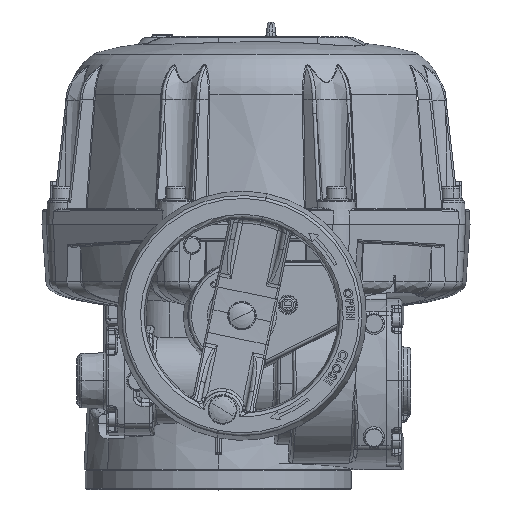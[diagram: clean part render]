
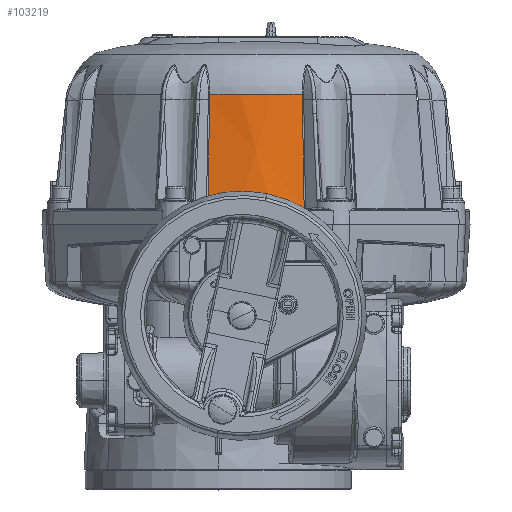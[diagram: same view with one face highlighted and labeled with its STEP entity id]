
A CAD part, top view. The second image highlights one B-rep face of the part: STEP entity #103219.
In plain terms, the highlighted conical face has half-angle 5 degrees and reference radius 131 mm.
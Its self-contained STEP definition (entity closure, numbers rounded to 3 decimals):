
#767 = CARTESIAN_POINT ( 'NONE',  ( 337.524, 263.365, 260.131 ) ) ;
#1423 = CARTESIAN_POINT ( 'NONE',  ( 306.758, 186.5, 139.724 ) ) ;
#6143 = EDGE_CURVE ( 'NONE', #76288, #114962, #65627, .T. ) ;
#6591 = ORIENTED_EDGE ( 'NONE', *, *, #65759, .T. ) ;
#6792 = CARTESIAN_POINT ( 'NONE',  ( 275.888, 259.439, 260.458 ) ) ;
#7192 = CARTESIAN_POINT ( 'NONE',  ( 275.375, 228.226, 263.146 ) ) ;
#8525 = CARTESIAN_POINT ( 'NONE',  ( 274.869, 197.475, 265.793 ) ) ;
#10768 = CARTESIAN_POINT ( 'NONE',  ( 275.993, 263.365, 260.131 ) ) ;
#14200 = CARTESIAN_POINT ( 'NONE',  ( 275.855, 257.447, 260.63 ) ) ;
#14489 = CARTESIAN_POINT ( 'NONE',  ( 337.629, 259.439, 260.458 ) ) ;
#17680 = CARTESIAN_POINT ( 'NONE',  ( 276.026, 262.056, 260.257 ) ) ;
#18094 = CARTESIAN_POINT ( 'NONE',  ( 275.724, 249.477, 261.316 ) ) ;
#19257 = CARTESIAN_POINT ( 'NONE',  ( 338.813, 187.413, 266.659 ) ) ;
#21151 = CARTESIAN_POINT ( 'NONE',  ( 337.524, 263.365, 260.131 ) ) ;
#22842 = VERTEX_POINT ( 'NONE', #56551 ) ;
#22845 = CIRCLE ( 'NONE', #92672, 124.275 ) ;
#24742 = CARTESIAN_POINT ( 'NONE',  ( 337.96, 239.315, 262.191 ) ) ;
#25407 = CARTESIAN_POINT ( 'NONE',  ( 338.791, 188.741, 266.545 ) ) ;
#31359 = CARTESIAN_POINT ( 'NONE',  ( 337.629, 259.439, 260.458 ) ) ;
#32697 = CARTESIAN_POINT ( 'NONE',  ( 337.53, 260.748, 260.365 ) ) ;
#39671 = CIRCLE ( 'NONE', #57096, 130.92 ) ;
#40205 = DIRECTION ( 'NONE',  ( 0., 1., 0. ) ) ;
#40660 = B_SPLINE_CURVE_WITH_KNOTS ( 'NONE', 3,
 ( #64126, #66827, #111681, #14200, #118714, #70713, #18094, #100682, #7192, #69331, #79626, #8525, #108476 ),
 .UNSPECIFIED., .F., .F.,
 ( 4, 3, 3, 3, 4 ),
 ( 0., 0.002, 0.01, 0.042, 0.072 ),
 .UNSPECIFIED. ) ;
#42517 = EDGE_CURVE ( 'NONE', #121570, #22842, #40660, .T. ) ;
#44567 = CARTESIAN_POINT ( 'NONE',  ( 338.3, 218.627, 263.972 ) ) ;
#47030 = DIRECTION ( 'NONE',  ( 0., -1., 0. ) ) ;
#54132 = CARTESIAN_POINT ( 'NONE',  ( 338.813, 187.413, 266.659 ) ) ;
#55471 = CARTESIAN_POINT ( 'NONE',  ( 338.736, 192.062, 266.259 ) ) ;
#56483 = DIRECTION ( 'NONE',  ( -1., 0., 0. ) ) ;
#56551 = CARTESIAN_POINT ( 'NONE',  ( 274.704, 187.413, 266.659 ) ) ;
#57096 = AXIS2_PLACEMENT_3D ( 'NONE', #118001, #106373, #56483 ) ;
#58214 = VERTEX_POINT ( 'NONE', #19257 ) ;
#61927 = ORIENTED_EDGE ( 'NONE', *, *, #80200, .T. ) ;
#64126 = CARTESIAN_POINT ( 'NONE',  ( 275.888, 259.439, 260.458 ) ) ;
#65627 = B_SPLINE_CURVE_WITH_KNOTS ( 'NONE', 3,
 ( #31359, #32697, #73102, #21151 ),
 .UNSPECIFIED., .F., .F.,
 ( 4, 4 ),
 ( 0., 0.004 ),
 .UNSPECIFIED. ) ;
#65759 = EDGE_CURVE ( 'NONE', #22842, #58214, #39671, .T. ) ;
#66431 = CARTESIAN_POINT ( 'NONE',  ( 337.795, 249.377, 261.325 ) ) ;
#66827 = CARTESIAN_POINT ( 'NONE',  ( 275.877, 258.775, 260.515 ) ) ;
#69331 = CARTESIAN_POINT ( 'NONE',  ( 275.2, 217.6, 264.06 ) ) ;
#70713 = CARTESIAN_POINT ( 'NONE',  ( 275.768, 252.134, 261.087 ) ) ;
#72857 = ORIENTED_EDGE ( 'NONE', *, *, #80859, .T. ) ;
#73102 = CARTESIAN_POINT ( 'NONE',  ( 337.491, 262.056, 260.257 ) ) ;
#76288 = VERTEX_POINT ( 'NONE', #103864 ) ;
#77596 = B_SPLINE_CURVE_WITH_KNOTS ( 'NONE', 3,
 ( #54132, #118996, #25407, #116975, #55471, #108074, #127238, #96451, #44567, #129230, #24742, #66431, #14489 ),
 .UNSPECIFIED., .F., .F.,
 ( 4, 3, 3, 3, 4 ),
 ( 0., 0.002, 0.01, 0.042, 0.072 ),
 .UNSPECIFIED. ) ;
#79626 = CARTESIAN_POINT ( 'NONE',  ( 275.035, 207.537, 264.927 ) ) ;
#80200 = EDGE_CURVE ( 'NONE', #91670, #121570, #80999, .T. ) ;
#80859 = EDGE_CURVE ( 'NONE', #58214, #76288, #77596, .T. ) ;
#80999 = B_SPLINE_CURVE_WITH_KNOTS ( 'NONE', 3,
 ( #81937, #17680, #132400, #6792 ),
 .UNSPECIFIED., .F., .F.,
 ( 4, 4 ),
 ( 0., 0.004 ),
 .UNSPECIFIED. ) ;
#81301 = CARTESIAN_POINT ( 'NONE',  ( 306.758, 263.365, 139.724 ) ) ;
#81937 = CARTESIAN_POINT ( 'NONE',  ( 275.993, 263.365, 260.131 ) ) ;
#85896 = EDGE_CURVE ( 'NONE', #91670, #114962, #22845, .T. ) ;
#91670 = VERTEX_POINT ( 'NONE', #10768 ) ;
#92672 = AXIS2_PLACEMENT_3D ( 'NONE', #81301, #40205, #101662 ) ;
#92806 = ORIENTED_EDGE ( 'NONE', *, *, #42517, .T. ) ;
#93726 = AXIS2_PLACEMENT_3D ( 'NONE', #1423, #47030, #117458 ) ;
#94918 = FACE_OUTER_BOUND ( 'NONE', #107522, .T. ) ;
#95463 = CARTESIAN_POINT ( 'NONE',  ( 275.888, 259.439, 260.458 ) ) ;
#96451 = CARTESIAN_POINT ( 'NONE',  ( 338.475, 208.001, 264.887 ) ) ;
#100682 = CARTESIAN_POINT ( 'NONE',  ( 275.549, 238.851, 262.231 ) ) ;
#101662 = DIRECTION ( 'NONE',  ( -1., 0., 0. ) ) ;
#103219 = ADVANCED_FACE ( 'NONE', ( #94918 ), #117697, .T. ) ;
#103864 = CARTESIAN_POINT ( 'NONE',  ( 337.629, 259.439, 260.458 ) ) ;
#106373 = DIRECTION ( 'NONE',  ( 0., 1., 0. ) ) ;
#107522 = EDGE_LOOP ( 'NONE', ( #109546, #61927, #92806, #6591, #72857, #113629 ) ) ;
#108074 = CARTESIAN_POINT ( 'NONE',  ( 338.693, 194.718, 266.03 ) ) ;
#108476 = CARTESIAN_POINT ( 'NONE',  ( 274.704, 187.413, 266.659 ) ) ;
#109546 = ORIENTED_EDGE ( 'NONE', *, *, #85896, .F. ) ;
#111681 = CARTESIAN_POINT ( 'NONE',  ( 275.866, 258.111, 260.573 ) ) ;
#113629 = ORIENTED_EDGE ( 'NONE', *, *, #6143, .T. ) ;
#114962 = VERTEX_POINT ( 'NONE', #767 ) ;
#116975 = CARTESIAN_POINT ( 'NONE',  ( 338.78, 189.405, 266.488 ) ) ;
#117458 = DIRECTION ( 'NONE',  ( 1., 0., 0. ) ) ;
#117697 = CONICAL_SURFACE ( 'NONE', #93726, 131., 0.087 ) ;
#118001 = CARTESIAN_POINT ( 'NONE',  ( 306.758, 187.413, 139.724 ) ) ;
#118714 = CARTESIAN_POINT ( 'NONE',  ( 275.811, 254.79, 260.858 ) ) ;
#118996 = CARTESIAN_POINT ( 'NONE',  ( 338.802, 188.077, 266.602 ) ) ;
#121570 = VERTEX_POINT ( 'NONE', #95463 ) ;
#127238 = CARTESIAN_POINT ( 'NONE',  ( 338.649, 197.375, 265.802 ) ) ;
#129230 = CARTESIAN_POINT ( 'NONE',  ( 338.125, 229.252, 263.057 ) ) ;
#132400 = CARTESIAN_POINT ( 'NONE',  ( 275.987, 260.748, 260.365 ) ) ;
